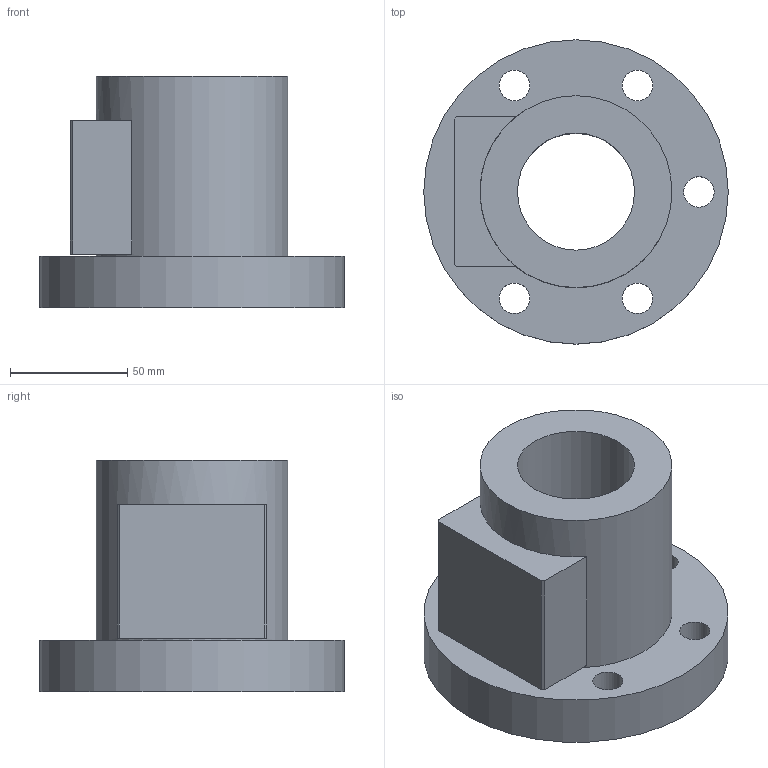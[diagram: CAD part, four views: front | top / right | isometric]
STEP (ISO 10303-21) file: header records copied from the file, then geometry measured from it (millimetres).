
FILE_DESCRIPTION(/* description */ (''),/* implementation_level */ '2;1');
FILE_NAME(/* name */ '50-12C1',/* time_stamp */ '2006-07-31T12:01:22+08:00',/* author */ (''),/* organization */ (''),/* preprocessor_version */ 'ST-DEVELOPER v9',/* originating_system */ 'UGS - NX 4.0',/* authorisation */ '');
FILE_SCHEMA (('CONFIG_CONTROL_DESIGN'));
Length unit declared in the file: millimetre
Products named in the file (1): 50-12C1
Bounding box: 130 x 130 x 99 mm (x, y, z)
Volume: 534957.3 mm3; surface area: 75990.8 mm2
Topology: 1 solids, 1 shells, 28 faces, 61 edges, 42 vertices
Faces by surface type: plane 15, cylinder 13
Full cylindrical faces by diameter (mm): 13 x5, 20 x5, 50 x1, 82 x1, 130 x1
Entity records: 794 total; most frequent: DIRECTION 130, CARTESIAN_POINT 111, ORIENTED_EDGE 88, EDGE_LOOP 60, AXIS2_PLACEMENT_3D 57, FACE_BOUND 45, EDGE_CURVE 44, VERTEX_POINT 38
